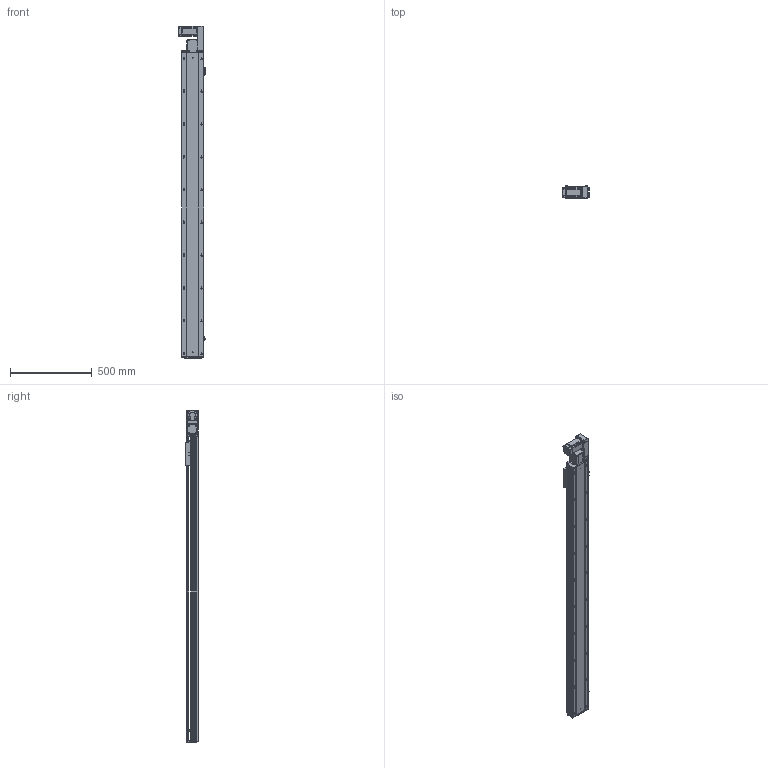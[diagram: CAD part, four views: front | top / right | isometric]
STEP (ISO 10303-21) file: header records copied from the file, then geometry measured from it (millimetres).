
FILE_DESCRIPTION (( 'STEP AP203' ), '1' );
FILE_NAME ('RY140-T-300-RK.SLDASM_1600.step', '2021-03-01T06:46:41', ( '盈信电脑' ), ( '东莞市道滘镇水果街19号' ), 'SwSTEP 2.0', 'SolidWorks 2012', '' );
FILE_SCHEMA (( 'CONFIG_CONTROL_DESIGN' ));
Products named in the file (17): 滅袉蝶18-10; RY140-T萇儂欶; RY140-T萇儂假蚾啣; RY140-T翋肮謫裔啣; RY120-T主同步轮轴承压盖; RY140-T-300-RK.SLDASM_1600; RY120-T蹟翐M4; 15; RY120-T肮祭湍揤踡輸2; RY120外置感应片(140共用）; RY140-T翋肮祭謫盓傅釱; RY120-T肮祭湍揤踡輸1; 覜茼ん672; RY140綴裔啣; RY140-T-300-DR倰第奻裔啣_1600; RY140肮祭謫臏賑輸; RY140-T-300-DR倰第菁釱_1600
Assembly tree (22 placements, depth 2):
  RY140-T-300-RK.SLDASM_1600
    RY140-T-300-DR倰第菁釱_1600
    RY140肮祭謫臏賑輸
    RY140-T-300-DR倰第奻裔啣_1600
    RY140綴裔啣
    覜茼ん672  x3
    RY120外置感应片(140共用）
    RY120-T肮祭湍揤踡輸2
    RY120-T肮祭湍揤踡輸1
    RY140-T翋肮祭謫盓傅釱
    滅袉蝶18-10  x2
    RY140-T翋肮謫裔啣
    RY140-T萇儂欶
    RY140-T萇儂假蚾啣
    RY120-T蹟翐M4  x4
    15
    RY120-T主同步轮轴承压盖
Bounding box: 170.7 x 78 x 2026.5 mm (x, y, z)
Volume: 5431889.4 mm3; surface area: 2110103.6 mm2
Topology: 22 solids, 22 shells, 2803 faces, 7689 edges, 4906 vertices
Faces by surface type: plane 1385, cylinder 1056, cone 262, bspline 100
Entity records: 88526 total; most frequent: CARTESIAN_POINT 21545, ORIENTED_EDGE 13778, DIRECTION 13149, EDGE_CURVE 6889, VERTEX_POINT 4505, AXIS2_PLACEMENT_3D 4402, LINE 4345, VECTOR 4345
